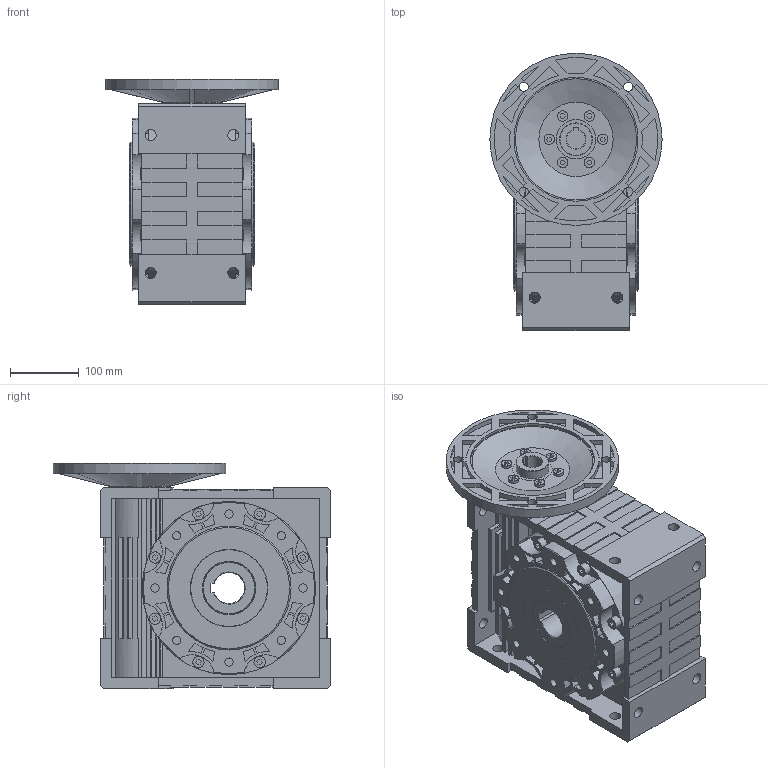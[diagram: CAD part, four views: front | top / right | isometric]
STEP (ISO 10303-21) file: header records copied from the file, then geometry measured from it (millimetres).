
FILE_DESCRIPTION(/* description */ (''),/* implementation_level */ '2;1');
FILE_NAME(/* name */ 'Z:\동력 3D 파일\PCMRV130_100-112B5_3D.stp',/* time_stamp */ '2021-12-01T17:38:21+09:00',/* author */ ('jaebok'),/* organization */ (''),/* preprocessor_version */ 'ST-DEVELOPER v18.1',/* originating_system */ 'Autodesk Inventor 2022',/* authorisation */ '');
FILE_SCHEMA (('AUTOMOTIVE_DESIGN { 1 0 10303 214 3 1 1 }'));
Length unit declared in the file: millimetre
Products named in the file (1): 부품60
Bounding box: 250 x 402.5 x 327 mm (x, y, z)
Volume: 13669209.4 mm3; surface area: 825266.5 mm2
Topology: 1 solids, 1 shells, 963 faces, 2469 edges, 1639 vertices
Faces by surface type: plane 635, cylinder 295, cone 33
Full cylindrical faces by diameter (mm): 12 x16, 13.5 x4, 15.084 x6, 16 x16, 16.5 x16, 47.6 x1, 57.12 x1, 76.5 x2, 81 x1, 89.75 x2, 91.75 x2, 112.5 x2, 180 x3, 250 x1, 251.6 x2
Entity records: 30568 total; most frequent: CARTESIAN_POINT 5508, DIRECTION 4951, ORIENTED_EDGE 4938, EDGE_CURVE 2469, LINE 1755, VECTOR 1755, VERTEX_POINT 1639, AXIS2_PLACEMENT_3D 1598
